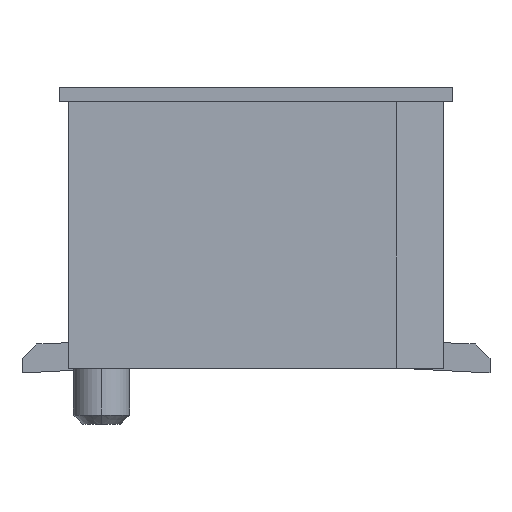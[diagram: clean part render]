
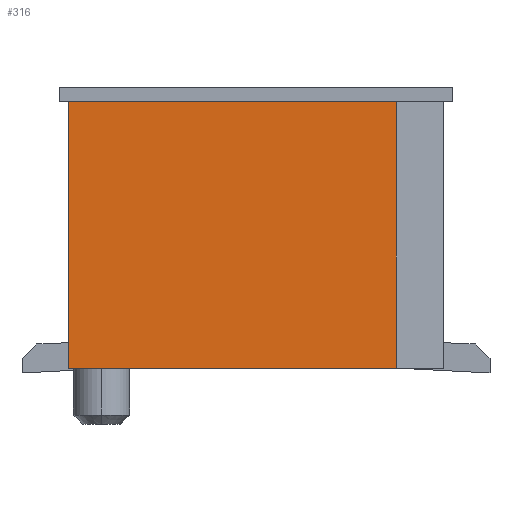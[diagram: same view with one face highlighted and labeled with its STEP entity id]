
A CAD part, left-side view. The second image highlights one B-rep face of the part: STEP entity #316.
In plain terms, the highlighted planar face has unit normal (-1, 0, 0).
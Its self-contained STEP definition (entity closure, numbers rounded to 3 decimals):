
#277=CARTESIAN_POINT('Axis2P3D Location',(-4.95,0.,0.)) ;
#282=CARTESIAN_POINT('Line Origine',(-4.95,-1.5,1.425)) ;
#286=CARTESIAN_POINT('Vertex',(-4.95,-1.5,2.85)) ;
#288=CARTESIAN_POINT('Vertex',(-4.95,-1.5,0.)) ;
#291=CARTESIAN_POINT('Line Origine',(-4.95,0.25,2.85)) ;
#295=CARTESIAN_POINT('Vertex',(-4.95,2.,2.85)) ;
#298=CARTESIAN_POINT('Line Origine',(-4.95,2.,1.425)) ;
#302=CARTESIAN_POINT('Vertex',(-4.95,2.,0.)) ;
#305=CARTESIAN_POINT('Line Origine',(-4.95,0.25,0.)) ;
#278=DIRECTION('Axis2P3D Direction',(1.,0.,0.)) ;
#279=DIRECTION('Axis2P3D XDirection',(0.,1.,0.)) ;
#283=DIRECTION('Vector Direction',(0.,0.,-1.)) ;
#292=DIRECTION('Vector Direction',(0.,-1.,0.)) ;
#299=DIRECTION('Vector Direction',(0.,0.,1.)) ;
#306=DIRECTION('Vector Direction',(0.,1.,0.)) ;
#280=AXIS2_PLACEMENT_3D('Plane Axis2P3D',#277,#278,#279) ;
#311=ORIENTED_EDGE('',*,*,#290,.F.) ;
#312=ORIENTED_EDGE('',*,*,#297,.F.) ;
#313=ORIENTED_EDGE('',*,*,#304,.F.) ;
#314=ORIENTED_EDGE('',*,*,#309,.F.) ;
#284=VECTOR('Line Direction',#283,1.) ;
#293=VECTOR('Line Direction',#292,1.) ;
#300=VECTOR('Line Direction',#299,1.) ;
#307=VECTOR('Line Direction',#306,1.) ;
#316=ADVANCED_FACE('\X2\96F64EF651E04F554F53\X0\',(#315),#281,.F.) ;
#290=EDGE_CURVE('',#287,#289,#285,.T.) ;
#297=EDGE_CURVE('',#296,#287,#294,.T.) ;
#304=EDGE_CURVE('',#303,#296,#301,.T.) ;
#309=EDGE_CURVE('',#289,#303,#308,.T.) ;
#310=EDGE_LOOP('',(#311,#312,#313,#314)) ;
#315=FACE_OUTER_BOUND('',#310,.T.) ;
#285=LINE('Line',#282,#284) ;
#294=LINE('Line',#291,#293) ;
#301=LINE('Line',#298,#300) ;
#308=LINE('Line',#305,#307) ;
#281=PLANE('Plane',#280) ;
#287=VERTEX_POINT('',#286) ;
#289=VERTEX_POINT('',#288) ;
#296=VERTEX_POINT('',#295) ;
#303=VERTEX_POINT('',#302) ;
